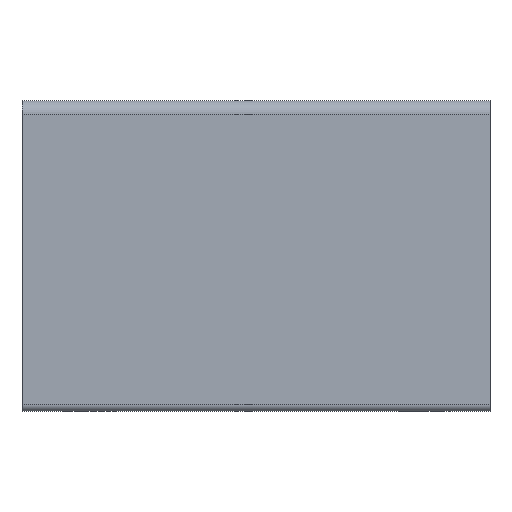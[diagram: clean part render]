
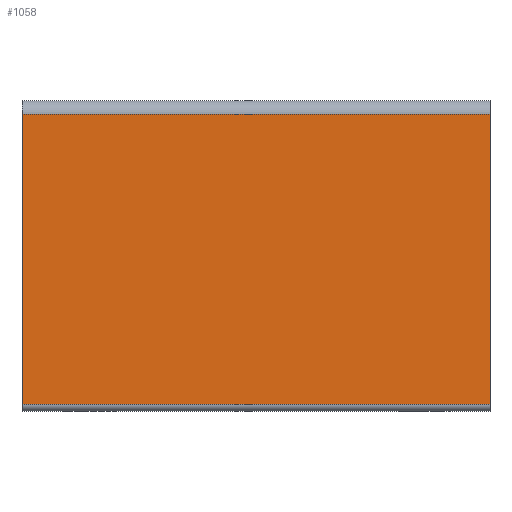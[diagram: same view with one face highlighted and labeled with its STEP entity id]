
A CAD part, front view. The second image highlights one B-rep face of the part: STEP entity #1058.
In plain terms, the highlighted planar face has unit normal (0, -1, 0).
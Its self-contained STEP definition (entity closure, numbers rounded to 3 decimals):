
#128=FACE_OUTER_BOUND('',#185,.T.);
#185=EDGE_LOOP('',(#880,#881,#882,#883));
#298=LINE('',#1767,#411);
#299=LINE('',#1770,#412);
#300=LINE('',#1772,#413);
#301=LINE('',#1773,#414);
#411=VECTOR('',#1454,10.);
#412=VECTOR('',#1457,10.);
#413=VECTOR('',#1458,10.);
#414=VECTOR('',#1459,10.);
#513=VERTEX_POINT('',#1763);
#514=VERTEX_POINT('',#1765);
#515=VERTEX_POINT('',#1769);
#516=VERTEX_POINT('',#1771);
#664=EDGE_CURVE('',#513,#514,#298,.T.);
#665=EDGE_CURVE('',#515,#513,#299,.T.);
#666=EDGE_CURVE('',#516,#514,#300,.T.);
#667=EDGE_CURVE('',#515,#516,#301,.T.);
#880=ORIENTED_EDGE('',*,*,#665,.T.);
#881=ORIENTED_EDGE('',*,*,#664,.T.);
#882=ORIENTED_EDGE('',*,*,#666,.F.);
#883=ORIENTED_EDGE('',*,*,#667,.F.);
#1006=PLANE('',#1163);
#1058=ADVANCED_FACE('',(#128),#1006,.T.);
#1163=AXIS2_PLACEMENT_3D('',#1768,#1455,#1456);
#1454=DIRECTION('',(1.,0.,0.));
#1455=DIRECTION('center_axis',(0.,-1.,0.));
#1456=DIRECTION('ref_axis',(0.,0.,-1.));
#1457=DIRECTION('',(0.,0.,-1.));
#1458=DIRECTION('',(0.,0.,-1.));
#1459=DIRECTION('',(1.,0.,0.));
#1763=CARTESIAN_POINT('',(0.,-10.1,0.5));
#1765=CARTESIAN_POINT('',(35.,-10.1,0.5));
#1767=CARTESIAN_POINT('',(0.,-10.1,0.5));
#1768=CARTESIAN_POINT('Origin',(0.,-10.1,22.2));
#1769=CARTESIAN_POINT('',(0.,-10.1,22.2));
#1770=CARTESIAN_POINT('',(0.,-10.1,22.2));
#1771=CARTESIAN_POINT('',(35.,-10.1,22.2));
#1772=CARTESIAN_POINT('',(35.,-10.1,22.2));
#1773=CARTESIAN_POINT('',(0.,-10.1,22.2));
